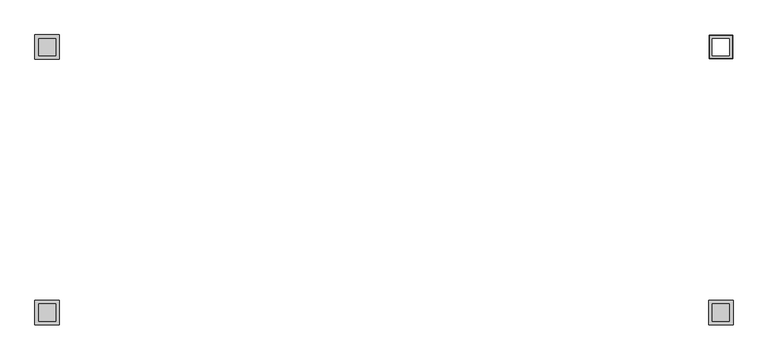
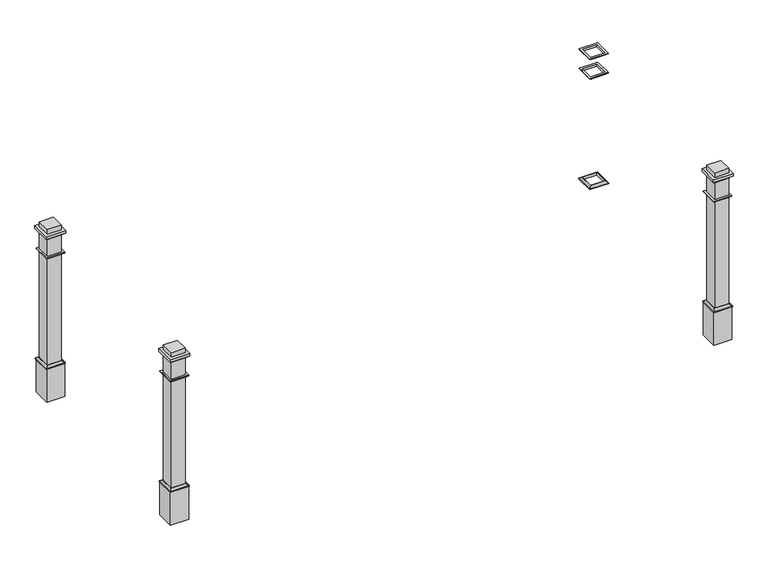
"""IFC4 building model written with IfcOpenShell, lengths in millimetres: railing geometry, Deco Type."""

from ifc_helpers import new_model, si_unit, frame, origin, place, context, project, spatial, polyline, ellipse_curve, outline, extrude, faceted_brep, source, transform, mapped, element, save
from ifc_brep_helpers import plane_surface, revolved_surface, advanced_brep


def railing_43a8c4a0(model_context):
    return source(origin(), model_context, "Body", "SolidModel", [
        advanced_brep(
        [(-6672.1906648, 13388.0931951, 3149.6), (-6551.5406648, 13388.0931951, 3149.6), (-6551.5406648, 13388.0931951, 3171.825), (-6672.1906648, 13388.0931951, 3171.825), (-6694.4156648, 13410.3181951, 3155.95), (-6529.3156648, 13410.3181951, 3155.95), (-6529.3156648, 13410.3181951, 3149.6), (-6694.4156648, 13410.3181951, 3149.6), (-6678.5406648, 13394.4431951, 3171.825), (-6545.1906648, 13394.4431951, 3171.825), (-6551.5406648, 13267.4431951, 3149.6), (-6551.5406648, 13267.4431951, 3171.825), (-6529.3156648, 13245.2181951, 3155.95), (-6529.3156648, 13245.2181951, 3149.6), (-6545.1906648, 13261.0931951, 3171.825), (-6672.1906648, 13267.4431951, 3149.6), (-6672.1906648, 13267.4431951, 3171.825), (-6694.4156648, 13245.2181951, 3155.95), (-6694.4156648, 13245.2181951, 3149.6), (-6678.5406648, 13261.0931951, 3171.825)],
        [
            (0, 1),
            (1, 2),
            (2, 3),
            (3, 0),
            (4, 5),
            (5, 6),
            (6, 7),
            (7, 4),
            (8, 9),
            (9, 5, ellipse_curve(frame((-6529.3156648, 13410.3181951, 3171.825), z_axis=(0.7071067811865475, -0.7071067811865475, 0.0), x_axis=(0.7071067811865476, 0.7071067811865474, 0.0)), 22.4506403, 15.875)),
            (4, 8, ellipse_curve(frame((-6694.4156648, 13410.3181951, 3171.825), z_axis=(-0.7071067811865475, -0.7071067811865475, 0.0), x_axis=(0.7071067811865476, -0.7071067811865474, 0.0)), 22.4506403, 15.875)),
            (1, 10),
            (10, 11),
            (11, 2),
            (5, 12),
            (12, 13),
            (13, 6),
            (9, 14),
            (14, 12, ellipse_curve(frame((-6529.3156648, 13245.2181951, 3171.825), z_axis=(-0.7071067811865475, -0.7071067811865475, 0.0), x_axis=(0.7071067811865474, -0.7071067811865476, 0.0)), 22.4506403, 15.875)),
            (10, 15),
            (15, 16),
            (16, 11),
            (12, 17),
            (17, 18),
            (18, 13),
            (14, 19),
            (19, 17, ellipse_curve(frame((-6694.4156648, 13245.2181951, 3171.825), z_axis=(-0.7071067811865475, 0.7071067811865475, 0.0), x_axis=(-0.7071067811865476, -0.7071067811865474, 0.0)), 22.4506403, 15.875)),
            (15, 0),
            (3, 16),
            (18, 7),
            (17, 4),
            (19, 8),
        ],
        [
            plane_surface(frame((-6672.1906648, 13388.0931951, 3171.825), z_axis=(0.0, -1.0, 0.0), x_axis=(1.0, 0.0, 0.0))),
            plane_surface(frame((-6694.4156648, 13410.3181951, 3149.6), z_axis=(0.0, 1.0, 0.0), x_axis=(1.0, 0.0, 0.0))),
            revolved_surface(polyline([(-6513.44066480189, 13394.4431951, 3171.825), (-6710.29066479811, 13394.4431951, 3171.825)]), (-6672.1906648, 13410.3181951, 3171.825), (1.0, 0.0, 0.0)),
            plane_surface(frame((-6551.5406648, 13388.0931951, 3171.825), z_axis=(-1.0, 0.0, 0.0), x_axis=(0.0, -1.0, 0.0))),
            plane_surface(frame((-6529.3156648, 13410.3181951, 3149.6), z_axis=(1.0, 0.0, 0.0), x_axis=(0.0, -1.0, 0.0))),
            revolved_surface(polyline([(-6545.1906648, 13229.34319510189, 3171.825), (-6545.1906648, 13426.19319509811, 3171.825)]), (-6529.3156648, 13388.0931951, 3171.825), (0.0, -1.0, 0.0)),
            plane_surface(frame((-6551.5406648, 13267.4431951, 3171.825), z_axis=(0.0, 1.0, 0.0), x_axis=(-1.0, 0.0, 0.0))),
            plane_surface(frame((-6529.3156648, 13245.2181951, 3149.6), z_axis=(0.0, -1.0, 0.0), x_axis=(-1.0, 0.0, 0.0))),
            revolved_surface(polyline([(-6710.29066479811, 13261.0931951, 3171.825), (-6513.44066480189, 13261.0931951, 3171.825)]), (-6551.5406648, 13245.2181951, 3171.825), (-1.0, 0.0, 0.0)),
            plane_surface(frame((-6672.1906648, 13267.4431951, 3171.825), z_axis=(1.0, 0.0, 0.0), x_axis=(0.0, 1.0, 0.0))),
            plane_surface(frame((-6672.1906648, 13267.4431951, 3149.6), z_axis=(0.0, 0.0, -1.0), x_axis=(0.0, 1.0, 0.0))),
            plane_surface(frame((-6694.4156648, 13245.2181951, 3149.6), z_axis=(-1.0, 0.0, 0.0), x_axis=(0.0, 1.0, 0.0))),
            revolved_surface(polyline([(-6678.5406648, 13426.19319509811, 3171.825), (-6678.5406648, 13229.34319510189, 3171.825)]), (-6694.4156648, 13267.4431951, 3171.825), (0.0, 1.0, 0.0)),
            plane_surface(frame((-6678.5406648, 13261.0931951, 3171.825), z_axis=(0.0, 0.0, 1.0), x_axis=(0.0, 1.0, 0.0))),
        ],
        [
            (0, [[1, 2, 3, 4]]),
            (1, [[5, 6, 7, 8]]),
            (2, [[9, 10, -5, 11]]),
            (3, [[12, 13, 14, -2]]),
            (4, [[15, 16, 17, -6]]),
            (5, [[18, 19, -15, -10]]),
            (6, [[20, 21, 22, -13]]),
            (7, [[23, 24, 25, -16]]),
            (8, [[26, 27, -23, -19]]),
            (9, [[28, -4, 29, -21]]),
            (10, [[-7, -17, -25, 30], [-1, -28, -20, -12]]),
            (11, [[31, -8, -30, -24]]),
            (12, [[32, -11, -31, -27]]),
            (13, [[-9, -32, -26, -18], [-3, -14, -22, -29]]),
        ],
    ),
        advanced_brep(
        [(-6672.1906648, 13388.0931951, 4156.075), (-6551.5406648, 13388.0931951, 4156.075), (-6551.5406648, 13388.0931951, 4175.125), (-6672.1906648, 13388.0931951, 4175.125), (-6691.2406648, 13407.1431951, 4168.775), (-6532.4906648, 13407.1431951, 4168.775), (-6545.1906648, 13394.4431951, 4156.075), (-6678.5406648, 13394.4431951, 4156.075), (-6691.2406648, 13407.1431951, 4175.125), (-6532.4906648, 13407.1431951, 4175.125), (-6551.5406648, 13267.4431951, 4156.075), (-6551.5406648, 13267.4431951, 4175.125), (-6532.4906648, 13248.3931951, 4168.775), (-6545.1906648, 13261.0931951, 4156.075), (-6532.4906648, 13248.3931951, 4175.125), (-6672.1906648, 13267.4431951, 4156.075), (-6672.1906648, 13267.4431951, 4175.125), (-6691.2406648, 13248.3931951, 4168.775), (-6678.5406648, 13261.0931951, 4156.075), (-6691.2406648, 13248.3931951, 4175.125)],
        [
            (0, 1),
            (1, 2),
            (2, 3),
            (3, 0),
            (4, 5),
            (5, 6, ellipse_curve(frame((-6532.4906648, 13407.1431951, 4156.075), z_axis=(0.7071067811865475, -0.7071067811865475, 0.0), x_axis=(0.7071067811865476, 0.7071067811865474, 0.0)), 17.9605122, 12.7)),
            (6, 7),
            (7, 4, ellipse_curve(frame((-6691.2406648, 13407.1431951, 4156.075), z_axis=(-0.7071067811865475, -0.7071067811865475, 0.0), x_axis=(0.7071067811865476, -0.7071067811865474, 0.0)), 17.9605122, 12.7)),
            (8, 9),
            (9, 5),
            (4, 8),
            (1, 10),
            (10, 11),
            (11, 2),
            (5, 12),
            (12, 13, ellipse_curve(frame((-6532.4906648, 13248.3931951, 4156.075), z_axis=(-0.7071067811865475, -0.7071067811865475, 0.0), x_axis=(0.7071067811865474, -0.7071067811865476, 0.0)), 17.9605122, 12.7)),
            (13, 6),
            (9, 14),
            (14, 12),
            (10, 15),
            (15, 16),
            (16, 11),
            (12, 17),
            (17, 18, ellipse_curve(frame((-6691.2406648, 13248.3931951, 4156.075), z_axis=(-0.7071067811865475, 0.7071067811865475, 0.0), x_axis=(-0.7071067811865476, -0.7071067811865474, 0.0)), 17.9605122, 12.7)),
            (18, 13),
            (14, 19),
            (19, 17),
            (8, 19),
            (16, 3),
            (15, 0),
            (18, 7),
            (17, 4),
        ],
        [
            plane_surface(frame((-6672.1906648, 13388.0931951, 4175.125), z_axis=(0.0, -1.0, 0.0), x_axis=(1.0, 0.0, 0.0))),
            revolved_surface(polyline([(-6519.790664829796, 13394.443195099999, 4156.075), (-6703.9406647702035, 13394.443195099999, 4156.075)]), (-6672.1906648, 13407.1431951, 4156.075), (1.0, 0.0, 0.0)),
            plane_surface(frame((-6691.2406648, 13407.1431951, 4168.775), z_axis=(0.0, 1.0, 0.0), x_axis=(1.0, 0.0, 0.0))),
            plane_surface(frame((-6551.5406648, 13388.0931951, 4175.125), z_axis=(-1.0, 0.0, 0.0), x_axis=(0.0, -1.0, 0.0))),
            revolved_surface(polyline([(-6545.1906647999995, 13235.693195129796, 4156.075), (-6545.1906647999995, 13419.843195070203, 4156.075)]), (-6532.4906648, 13388.0931951, 4156.075), (0.0, -1.0, 0.0)),
            plane_surface(frame((-6532.4906648, 13407.1431951, 4168.775), z_axis=(1.0, 0.0, 0.0), x_axis=(0.0, -1.0, 0.0))),
            plane_surface(frame((-6551.5406648, 13267.4431951, 4175.125), z_axis=(0.0, 1.0, 0.0), x_axis=(-1.0, 0.0, 0.0))),
            revolved_surface(polyline([(-6703.9406647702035, 13261.0931951, 4156.075), (-6519.790664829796, 13261.0931951, 4156.075)]), (-6551.5406648, 13248.3931951, 4156.075), (-1.0, 0.0, 0.0)),
            plane_surface(frame((-6532.4906648, 13248.3931951, 4168.775), z_axis=(0.0, -1.0, 0.0), x_axis=(-1.0, 0.0, 0.0))),
            plane_surface(frame((-6691.2406648, 13248.3931951, 4175.125), z_axis=(0.0, 0.0, 1.0), x_axis=(0.0, 1.0, 0.0))),
            plane_surface(frame((-6672.1906648, 13267.4431951, 4175.125), z_axis=(1.0, 0.0, 0.0), x_axis=(0.0, 1.0, 0.0))),
            plane_surface(frame((-6672.1906648, 13267.4431951, 4156.075), z_axis=(0.0, 0.0, -1.0), x_axis=(0.0, 1.0, 0.0))),
            revolved_surface(polyline([(-6678.5406648, 13419.843195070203, 4156.075), (-6678.5406648, 13235.693195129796, 4156.075)]), (-6691.2406648, 13267.4431951, 4156.075), (0.0, 1.0, 0.0)),
            plane_surface(frame((-6691.2406648, 13248.3931951, 4168.775), z_axis=(-1.0, 0.0, 0.0), x_axis=(0.0, 1.0, 0.0))),
        ],
        [
            (0, [[1, 2, 3, 4]]),
            (1, [[5, 6, 7, 8]]),
            (2, [[9, 10, -5, 11]]),
            (3, [[12, 13, 14, -2]]),
            (4, [[15, 16, 17, -6]]),
            (5, [[18, 19, -15, -10]]),
            (6, [[20, 21, 22, -13]]),
            (7, [[23, 24, 25, -16]]),
            (8, [[26, 27, -23, -19]]),
            (9, [[-9, 28, -26, -18], [-3, -14, -22, 29]]),
            (10, [[30, -4, -29, -21]]),
            (11, [[-7, -17, -25, 31], [-1, -30, -20, -12]]),
            (12, [[32, -8, -31, -24]]),
            (13, [[-28, -11, -32, -27]]),
        ],
    ),
        faceted_brep([(-6672.1906648, 13388.0931951, 4333.875), (-6551.5406648, 13388.0931951, 4333.875), (-6551.5406648, 13388.0931951, 4352.925), (-6672.1906648, 13388.0931951, 4352.925), (-6678.5406648, 13394.4431951, 4346.575), (-6545.1906648, 13394.4431951, 4346.575), (-6545.1906648, 13394.4431951, 4333.875), (-6678.5406648, 13394.4431951, 4333.875), (-6691.2406648, 13407.1431951, 4352.925), (-6532.4906648, 13407.1431951, 4352.925), (-6532.4906648, 13407.1431951, 4346.575), (-6691.2406648, 13407.1431951, 4346.575), (-6551.5406648, 13267.4431951, 4333.875), (-6551.5406648, 13267.4431951, 4352.925), (-6545.1906648, 13261.0931951, 4346.575), (-6545.1906648, 13261.0931951, 4333.875), (-6532.4906648, 13248.3931951, 4352.925), (-6532.4906648, 13248.3931951, 4346.575), (-6672.1906648, 13267.4431951, 4333.875), (-6672.1906648, 13267.4431951, 4352.925), (-6678.5406648, 13261.0931951, 4346.575), (-6678.5406648, 13261.0931951, 4333.875), (-6691.2406648, 13248.3931951, 4352.925), (-6691.2406648, 13248.3931951, 4346.575)], [[[0, 1, 2, 3]], [[4, 5, 6, 7]], [[8, 9, 10, 11]], [[1, 12, 13, 2]], [[5, 14, 15, 6]], [[9, 16, 17, 10]], [[12, 18, 19, 13]], [[14, 20, 21, 15]], [[16, 22, 23, 17]], [[18, 0, 3, 19]], [[7, 6, 15, 21], [1, 0, 18, 12]], [[20, 4, 7, 21]], [[11, 10, 17, 23], [5, 4, 20, 14]], [[22, 8, 11, 23]], [[9, 8, 22, 16], [3, 2, 13, 19]]]),
        extrude(outline(polyline([(-11275.1469148, 13248.3931951), (-11433.8969148, 13248.3931951), (-11433.8969148, 13407.1431951), (-11275.1469148, 13407.1431951), (-11275.1469148, 13248.3931951)])), frame((0.0, 0.0, 2844.8), z_axis=(0.0, 0.0, 1.0), x_axis=(1.0, 0.0, 0.0)), (0.0, 0.0, 1.0), 304.8),
        extrude(outline(polyline([(-11294.1969148, 13267.4431951), (-11414.8469148, 13267.4431951), (-11414.8469148, 13388.0931951), (-11294.1969148, 13388.0931951), (-11294.1969148, 13267.4431951)])), frame((0.0, 0.0, 3149.6), z_axis=(0.0, 0.0, 1.0), x_axis=(1.0, 0.0, 0.0)), (0.0, 0.0, 1.0), 1270.0),
        extrude(outline(polyline([(-11440.2469148, 13242.0431951), (-11440.2469148, 13413.4931951), (-11268.7969148, 13413.4931951), (-11268.7969148, 13242.0431951), (-11440.2469148, 13242.0431951)]), holes=[polyline([(-11414.8469148, 13388.0931951), (-11414.8469148, 13267.4431951), (-11294.1969148, 13267.4431951), (-11294.1969148, 13388.0931951), (-11414.8469148, 13388.0931951)])]), frame((0.0, 0.0, 4352.925), z_axis=(0.0, 0.0, 1.0), x_axis=(1.0, 0.0, 0.0)), (0.0, 0.0, 1.0), 25.4),
        advanced_brep(
        [(-11414.8469148, 13267.4431951, 3149.6), (-11414.8469148, 13388.0931951, 3149.6), (-11414.8469148, 13388.0931951, 3171.825), (-11414.8469148, 13267.4431951, 3171.825), (-11437.0719148, 13245.2181951, 3155.95), (-11437.0719148, 13410.3181951, 3155.95), (-11437.0719148, 13410.3181951, 3149.6), (-11437.0719148, 13245.2181951, 3149.6), (-11421.1969148, 13261.0931951, 3171.825), (-11421.1969148, 13394.4431951, 3171.825), (-11294.1969148, 13388.0931951, 3149.6), (-11294.1969148, 13388.0931951, 3171.825), (-11271.9719148, 13410.3181951, 3155.95), (-11271.9719148, 13410.3181951, 3149.6), (-11287.8469148, 13394.4431951, 3171.825), (-11294.1969148, 13267.4431951, 3149.6), (-11294.1969148, 13267.4431951, 3171.825), (-11271.9719148, 13245.2181951, 3155.95), (-11271.9719148, 13245.2181951, 3149.6), (-11287.8469148, 13261.0931951, 3171.825)],
        [
            (0, 1),
            (1, 2),
            (2, 3),
            (3, 0),
            (4, 5),
            (5, 6),
            (6, 7),
            (7, 4),
            (8, 9),
            (9, 5, ellipse_curve(frame((-11437.0719148, 13410.3181951, 3171.825), z_axis=(0.7071067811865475, 0.7071067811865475, 0.0), x_axis=(-0.7071067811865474, 0.7071067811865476, 0.0)), 22.4506403, 15.875)),
            (4, 8, ellipse_curve(frame((-11437.0719148, 13245.2181951, 3171.825), z_axis=(0.7071067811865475, -0.7071067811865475, 0.0), x_axis=(0.7071067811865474, 0.7071067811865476, 0.0)), 22.4506403, 15.875)),
            (1, 10),
            (10, 11),
            (11, 2),
            (5, 12),
            (12, 13),
            (13, 6),
            (9, 14),
            (14, 12, ellipse_curve(frame((-11271.9719148, 13410.3181951, 3171.825), z_axis=(0.7071067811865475, -0.7071067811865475, 0.0), x_axis=(0.7071067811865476, 0.7071067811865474, 0.0)), 22.4506403, 15.875)),
            (10, 15),
            (15, 16),
            (16, 11),
            (12, 17),
            (17, 18),
            (18, 13),
            (14, 19),
            (19, 17, ellipse_curve(frame((-11271.9719148, 13245.2181951, 3171.825), z_axis=(-0.7071067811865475, -0.7071067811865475, 0.0), x_axis=(0.7071067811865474, -0.7071067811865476, 0.0)), 22.4506403, 15.875)),
            (15, 0),
            (3, 16),
            (18, 7),
            (17, 4),
            (19, 8),
        ],
        [
            plane_surface(frame((-11414.8469148, 13267.4431951, 3171.825), z_axis=(1.0, 0.0, 0.0), x_axis=(0.0, 1.0, 0.0))),
            plane_surface(frame((-11437.0719148, 13245.2181951, 3149.6), z_axis=(-1.0, 0.0, 0.0), x_axis=(0.0, 1.0, 0.0))),
            revolved_surface(polyline([(-11421.1969148, 13426.19319509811, 3171.825), (-11421.1969148, 13229.34319510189, 3171.825)]), (-11437.0719148, 13267.4431951, 3171.825), (0.0, 1.0, 0.0)),
            plane_surface(frame((-11414.8469148, 13388.0931951, 3171.825), z_axis=(0.0, -1.0, 0.0), x_axis=(1.0, 0.0, 0.0))),
            plane_surface(frame((-11437.0719148, 13410.3181951, 3149.6), z_axis=(0.0, 1.0, 0.0), x_axis=(1.0, 0.0, 0.0))),
            revolved_surface(polyline([(-11256.09691480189, 13394.4431951, 3171.825), (-11452.94691479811, 13394.4431951, 3171.825)]), (-11414.8469148, 13410.3181951, 3171.825), (1.0, 0.0, 0.0)),
            plane_surface(frame((-11294.1969148, 13388.0931951, 3171.825), z_axis=(-1.0, 0.0, 0.0), x_axis=(0.0, -1.0, 0.0))),
            plane_surface(frame((-11271.9719148, 13410.3181951, 3149.6), z_axis=(1.0, 0.0, 0.0), x_axis=(0.0, -1.0, 0.0))),
            revolved_surface(polyline([(-11287.8469148, 13229.34319510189, 3171.825), (-11287.8469148, 13426.19319509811, 3171.825)]), (-11271.9719148, 13388.0931951, 3171.825), (0.0, -1.0, 0.0)),
            plane_surface(frame((-11294.1969148, 13267.4431951, 3171.825), z_axis=(0.0, 1.0, 0.0), x_axis=(-1.0, 0.0, 0.0))),
            plane_surface(frame((-11294.1969148, 13267.4431951, 3149.6), z_axis=(0.0, 0.0, -1.0), x_axis=(-1.0, 0.0, 0.0))),
            plane_surface(frame((-11271.9719148, 13245.2181951, 3149.6), z_axis=(0.0, -1.0, 0.0), x_axis=(-1.0, 0.0, 0.0))),
            revolved_surface(polyline([(-11452.94691479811, 13261.0931951, 3171.825), (-11256.09691480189, 13261.0931951, 3171.825)]), (-11294.1969148, 13245.2181951, 3171.825), (-1.0, 0.0, 0.0)),
            plane_surface(frame((-11287.8469148, 13261.0931951, 3171.825), z_axis=(0.0, 0.0, 1.0), x_axis=(-1.0, 0.0, 0.0))),
        ],
        [
            (0, [[1, 2, 3, 4]]),
            (1, [[5, 6, 7, 8]]),
            (2, [[9, 10, -5, 11]]),
            (3, [[12, 13, 14, -2]]),
            (4, [[15, 16, 17, -6]]),
            (5, [[18, 19, -15, -10]]),
            (6, [[20, 21, 22, -13]]),
            (7, [[23, 24, 25, -16]]),
            (8, [[26, 27, -23, -19]]),
            (9, [[28, -4, 29, -21]]),
            (10, [[-7, -17, -25, 30], [-1, -28, -20, -12]]),
            (11, [[31, -8, -30, -24]]),
            (12, [[32, -11, -31, -27]]),
            (13, [[-9, -32, -26, -18], [-3, -14, -22, -29]]),
        ],
    ),
        advanced_brep(
        [(-11414.8469148, 13267.4431951, 4156.075), (-11414.8469148, 13388.0931951, 4156.075), (-11414.8469148, 13388.0931951, 4175.125), (-11414.8469148, 13267.4431951, 4175.125), (-11433.8969148, 13248.3931951, 4168.775), (-11433.8969148, 13407.1431951, 4168.775), (-11421.1969148, 13394.4431951, 4156.075), (-11421.1969148, 13261.0931951, 4156.075), (-11433.8969148, 13248.3931951, 4175.125), (-11433.8969148, 13407.1431951, 4175.125), (-11294.1969148, 13388.0931951, 4156.075), (-11294.1969148, 13388.0931951, 4175.125), (-11275.1469148, 13407.1431951, 4168.775), (-11287.8469148, 13394.4431951, 4156.075), (-11275.1469148, 13407.1431951, 4175.125), (-11294.1969148, 13267.4431951, 4156.075), (-11294.1969148, 13267.4431951, 4175.125), (-11275.1469148, 13248.3931951, 4168.775), (-11287.8469148, 13261.0931951, 4156.075), (-11275.1469148, 13248.3931951, 4175.125)],
        [
            (0, 1),
            (1, 2),
            (2, 3),
            (3, 0),
            (4, 5),
            (5, 6, ellipse_curve(frame((-11433.8969148, 13407.1431951, 4156.075), z_axis=(0.7071067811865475, 0.7071067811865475, 0.0), x_axis=(-0.7071067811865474, 0.7071067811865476, 0.0)), 17.9605122, 12.7)),
            (6, 7),
            (7, 4, ellipse_curve(frame((-11433.8969148, 13248.3931951, 4156.075), z_axis=(0.7071067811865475, -0.7071067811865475, 0.0), x_axis=(0.7071067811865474, 0.7071067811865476, 0.0)), 17.9605122, 12.7)),
            (8, 9),
            (9, 5),
            (4, 8),
            (1, 10),
            (10, 11),
            (11, 2),
            (5, 12),
            (12, 13, ellipse_curve(frame((-11275.1469148, 13407.1431951, 4156.075), z_axis=(0.7071067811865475, -0.7071067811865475, 0.0), x_axis=(0.7071067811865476, 0.7071067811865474, 0.0)), 17.9605122, 12.7)),
            (13, 6),
            (9, 14),
            (14, 12),
            (10, 15),
            (15, 16),
            (16, 11),
            (12, 17),
            (17, 18, ellipse_curve(frame((-11275.1469148, 13248.3931951, 4156.075), z_axis=(-0.7071067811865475, -0.7071067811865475, 0.0), x_axis=(0.7071067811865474, -0.7071067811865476, 0.0)), 17.9605122, 12.7)),
            (18, 13),
            (14, 19),
            (19, 17),
            (8, 19),
            (16, 3),
            (15, 0),
            (18, 7),
            (17, 4),
        ],
        [
            plane_surface(frame((-11414.8469148, 13267.4431951, 4175.125), z_axis=(1.0, 0.0, 0.0), x_axis=(0.0, 1.0, 0.0))),
            revolved_surface(polyline([(-11421.196914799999, 13419.843195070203, 4156.075), (-11421.196914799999, 13235.693195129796, 4156.075)]), (-11433.8969148, 13267.4431951, 4156.075), (0.0, 1.0, 0.0)),
            plane_surface(frame((-11433.8969148, 13248.3931951, 4168.775), z_axis=(-1.0, 0.0, 0.0), x_axis=(0.0, 1.0, 0.0))),
            plane_surface(frame((-11414.8469148, 13388.0931951, 4175.125), z_axis=(0.0, -1.0, 0.0), x_axis=(1.0, 0.0, 0.0))),
            revolved_surface(polyline([(-11262.446914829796, 13394.443195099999, 4156.075), (-11446.596914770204, 13394.443195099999, 4156.075)]), (-11414.8469148, 13407.1431951, 4156.075), (1.0, 0.0, 0.0)),
            plane_surface(frame((-11433.8969148, 13407.1431951, 4168.775), z_axis=(0.0, 1.0, 0.0), x_axis=(1.0, 0.0, 0.0))),
            plane_surface(frame((-11294.1969148, 13388.0931951, 4175.125), z_axis=(-1.0, 0.0, 0.0), x_axis=(0.0, -1.0, 0.0))),
            revolved_surface(polyline([(-11287.8469148, 13235.693195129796, 4156.075), (-11287.8469148, 13419.843195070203, 4156.075)]), (-11275.1469148, 13388.0931951, 4156.075), (0.0, -1.0, 0.0)),
            plane_surface(frame((-11275.1469148, 13407.1431951, 4168.775), z_axis=(1.0, 0.0, 0.0), x_axis=(0.0, -1.0, 0.0))),
            plane_surface(frame((-11275.1469148, 13248.3931951, 4175.125), z_axis=(0.0, 0.0, 1.0), x_axis=(-1.0, 0.0, 0.0))),
            plane_surface(frame((-11294.1969148, 13267.4431951, 4175.125), z_axis=(0.0, 1.0, 0.0), x_axis=(-1.0, 0.0, 0.0))),
            plane_surface(frame((-11294.1969148, 13267.4431951, 4156.075), z_axis=(0.0, 0.0, -1.0), x_axis=(-1.0, 0.0, 0.0))),
            revolved_surface(polyline([(-11446.596914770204, 13261.0931951, 4156.075), (-11262.446914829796, 13261.0931951, 4156.075)]), (-11294.1969148, 13248.3931951, 4156.075), (-1.0, 0.0, 0.0)),
            plane_surface(frame((-11275.1469148, 13248.3931951, 4168.775), z_axis=(0.0, -1.0, 0.0), x_axis=(-1.0, 0.0, 0.0))),
        ],
        [
            (0, [[1, 2, 3, 4]]),
            (1, [[5, 6, 7, 8]]),
            (2, [[9, 10, -5, 11]]),
            (3, [[12, 13, 14, -2]]),
            (4, [[15, 16, 17, -6]]),
            (5, [[18, 19, -15, -10]]),
            (6, [[20, 21, 22, -13]]),
            (7, [[23, 24, 25, -16]]),
            (8, [[26, 27, -23, -19]]),
            (9, [[-9, 28, -26, -18], [-3, -14, -22, 29]]),
            (10, [[30, -4, -29, -21]]),
            (11, [[-7, -17, -25, 31], [-1, -30, -20, -12]]),
            (12, [[32, -8, -31, -24]]),
            (13, [[-28, -11, -32, -27]]),
        ],
    ),
        faceted_brep([(-11414.8469148, 13267.4431951, 4333.875), (-11414.8469148, 13388.0931951, 4333.875), (-11414.8469148, 13388.0931951, 4352.925), (-11414.8469148, 13267.4431951, 4352.925), (-11421.1969148, 13261.0931951, 4346.575), (-11421.1969148, 13394.4431951, 4346.575), (-11421.1969148, 13394.4431951, 4333.875), (-11421.1969148, 13261.0931951, 4333.875), (-11433.8969148, 13248.3931951, 4352.925), (-11433.8969148, 13407.1431951, 4352.925), (-11433.8969148, 13407.1431951, 4346.575), (-11433.8969148, 13248.3931951, 4346.575), (-11294.1969148, 13388.0931951, 4333.875), (-11294.1969148, 13388.0931951, 4352.925), (-11287.8469148, 13394.4431951, 4346.575), (-11287.8469148, 13394.4431951, 4333.875), (-11275.1469148, 13407.1431951, 4352.925), (-11275.1469148, 13407.1431951, 4346.575), (-11294.1969148, 13267.4431951, 4333.875), (-11294.1969148, 13267.4431951, 4352.925), (-11287.8469148, 13261.0931951, 4346.575), (-11287.8469148, 13261.0931951, 4333.875), (-11275.1469148, 13248.3931951, 4352.925), (-11275.1469148, 13248.3931951, 4346.575)], [[[0, 1, 2, 3]], [[4, 5, 6, 7]], [[8, 9, 10, 11]], [[1, 12, 13, 2]], [[5, 14, 15, 6]], [[9, 16, 17, 10]], [[12, 18, 19, 13]], [[14, 20, 21, 15]], [[16, 22, 23, 17]], [[18, 0, 3, 19]], [[7, 6, 15, 21], [1, 0, 18, 12]], [[20, 4, 7, 21]], [[11, 10, 17, 23], [5, 4, 20, 14]], [[22, 8, 11, 23]], [[9, 8, 22, 16], [3, 2, 13, 19]]]),
        extrude(outline(polyline([(-6691.2406648, 11535.0838201), (-6532.4906648, 11535.0838201), (-6532.4906648, 11376.3338201), (-6691.2406648, 11376.3338201), (-6691.2406648, 11535.0838201)])), frame((0.0, 0.0, 2844.8), z_axis=(0.0, 0.0, 1.0), x_axis=(1.0, 0.0, 0.0)), (0.0, 0.0, 1.0), 304.8),
        extrude(outline(polyline([(-6672.1906648, 11516.0338201), (-6551.5406648, 11516.0338201), (-6551.5406648, 11395.3838201), (-6672.1906648, 11395.3838201), (-6672.1906648, 11516.0338201)])), frame((0.0, 0.0, 3149.6), z_axis=(0.0, 0.0, 1.0), x_axis=(1.0, 0.0, 0.0)), (0.0, 0.0, 1.0), 1270.0),
        extrude(outline(polyline([(-6526.1406648, 11541.4338201), (-6526.1406648, 11369.9838201), (-6697.5906648, 11369.9838201), (-6697.5906648, 11541.4338201), (-6526.1406648, 11541.4338201)]), holes=[polyline([(-6551.5406648, 11395.3838201), (-6551.5406648, 11516.0338201), (-6672.1906648, 11516.0338201), (-6672.1906648, 11395.3838201), (-6551.5406648, 11395.3838201)])]), frame((0.0, 0.0, 4352.925), z_axis=(0.0, 0.0, 1.0), x_axis=(1.0, 0.0, 0.0)), (0.0, 0.0, 1.0), 25.4),
        advanced_brep(
        [(-6551.5406648, 11516.0338201, 3149.6), (-6551.5406648, 11395.3838201, 3149.6), (-6551.5406648, 11395.3838201, 3171.825), (-6551.5406648, 11516.0338201, 3171.825), (-6529.3156648, 11538.2588201, 3155.95), (-6529.3156648, 11373.1588201, 3155.95), (-6529.3156648, 11373.1588201, 3149.6), (-6529.3156648, 11538.2588201, 3149.6), (-6545.1906648, 11522.3838201, 3171.825), (-6545.1906648, 11389.0338201, 3171.825), (-6672.1906648, 11395.3838201, 3149.6), (-6672.1906648, 11395.3838201, 3171.825), (-6694.4156648, 11373.1588201, 3155.95), (-6694.4156648, 11373.1588201, 3149.6), (-6678.5406648, 11389.0338201, 3171.825), (-6672.1906648, 11516.0338201, 3149.6), (-6672.1906648, 11516.0338201, 3171.825), (-6694.4156648, 11538.2588201, 3155.95), (-6694.4156648, 11538.2588201, 3149.6), (-6678.5406648, 11522.3838201, 3171.825)],
        [
            (0, 1),
            (1, 2),
            (2, 3),
            (3, 0),
            (4, 5),
            (5, 6),
            (6, 7),
            (7, 4),
            (8, 9),
            (9, 5, ellipse_curve(frame((-6529.3156648, 11373.1588201, 3171.825), z_axis=(-0.7071067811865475, -0.7071067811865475, 0.0), x_axis=(0.7071067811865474, -0.7071067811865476, 0.0)), 22.4506403, 15.875)),
            (4, 8, ellipse_curve(frame((-6529.3156648, 11538.2588201, 3171.825), z_axis=(-0.7071067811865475, 0.7071067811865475, 0.0), x_axis=(-0.7071067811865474, -0.7071067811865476, 0.0)), 22.4506403, 15.875)),
            (1, 10),
            (10, 11),
            (11, 2),
            (5, 12),
            (12, 13),
            (13, 6),
            (9, 14),
            (14, 12, ellipse_curve(frame((-6694.4156648, 11373.1588201, 3171.825), z_axis=(-0.7071067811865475, 0.7071067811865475, 0.0), x_axis=(-0.7071067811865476, -0.7071067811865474, 0.0)), 22.4506403, 15.875)),
            (10, 15),
            (15, 16),
            (16, 11),
            (12, 17),
            (17, 18),
            (18, 13),
            (14, 19),
            (19, 17, ellipse_curve(frame((-6694.4156648, 11538.2588201, 3171.825), z_axis=(0.7071067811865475, 0.7071067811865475, 0.0), x_axis=(-0.7071067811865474, 0.7071067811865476, 0.0)), 22.4506403, 15.875)),
            (15, 0),
            (3, 16),
            (18, 7),
            (17, 4),
            (19, 8),
        ],
        [
            plane_surface(frame((-6551.5406648, 11516.0338201, 3171.825), z_axis=(-1.0, 0.0, 0.0), x_axis=(0.0, -1.0, 0.0))),
            plane_surface(frame((-6529.3156648, 11538.2588201, 3149.6), z_axis=(1.0, 0.0, 0.0), x_axis=(0.0, -1.0, 0.0))),
            revolved_surface(polyline([(-6545.1906648, 11357.28382010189, 3171.825), (-6545.1906648, 11554.13382009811, 3171.825)]), (-6529.3156648, 11516.0338201, 3171.825), (0.0, -1.0, 0.0)),
            plane_surface(frame((-6551.5406648, 11395.3838201, 3171.825), z_axis=(0.0, 1.0, 0.0), x_axis=(-1.0, 0.0, 0.0))),
            plane_surface(frame((-6529.3156648, 11373.1588201, 3149.6), z_axis=(0.0, -1.0, 0.0), x_axis=(-1.0, 0.0, 0.0))),
            revolved_surface(polyline([(-6710.29066479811, 11389.0338201, 3171.825), (-6513.44066480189, 11389.0338201, 3171.825)]), (-6551.5406648, 11373.1588201, 3171.825), (-1.0, 0.0, 0.0)),
            plane_surface(frame((-6672.1906648, 11395.3838201, 3171.825), z_axis=(1.0, 0.0, 0.0), x_axis=(0.0, 1.0, 0.0))),
            plane_surface(frame((-6694.4156648, 11373.1588201, 3149.6), z_axis=(-1.0, 0.0, 0.0), x_axis=(0.0, 1.0, 0.0))),
            revolved_surface(polyline([(-6678.5406648, 11554.13382009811, 3171.825), (-6678.5406648, 11357.28382010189, 3171.825)]), (-6694.4156648, 11395.3838201, 3171.825), (0.0, 1.0, 0.0)),
            plane_surface(frame((-6672.1906648, 11516.0338201, 3171.825), z_axis=(0.0, -1.0, 0.0), x_axis=(1.0, 0.0, 0.0))),
            plane_surface(frame((-6672.1906648, 11516.0338201, 3149.6), z_axis=(0.0, 0.0, -1.0), x_axis=(1.0, 0.0, 0.0))),
            plane_surface(frame((-6694.4156648, 11538.2588201, 3149.6), z_axis=(0.0, 1.0, 0.0), x_axis=(1.0, 0.0, 0.0))),
            revolved_surface(polyline([(-6513.44066480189, 11522.3838201, 3171.825), (-6710.29066479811, 11522.3838201, 3171.825)]), (-6672.1906648, 11538.2588201, 3171.825), (1.0, 0.0, 0.0)),
            plane_surface(frame((-6678.5406648, 11522.3838201, 3171.825), z_axis=(0.0, 0.0, 1.0), x_axis=(1.0, 0.0, 0.0))),
        ],
        [
            (0, [[1, 2, 3, 4]]),
            (1, [[5, 6, 7, 8]]),
            (2, [[9, 10, -5, 11]]),
            (3, [[12, 13, 14, -2]]),
            (4, [[15, 16, 17, -6]]),
            (5, [[18, 19, -15, -10]]),
            (6, [[20, 21, 22, -13]]),
            (7, [[23, 24, 25, -16]]),
            (8, [[26, 27, -23, -19]]),
            (9, [[28, -4, 29, -21]]),
            (10, [[-7, -17, -25, 30], [-1, -28, -20, -12]]),
            (11, [[31, -8, -30, -24]]),
            (12, [[32, -11, -31, -27]]),
            (13, [[-9, -32, -26, -18], [-3, -14, -22, -29]]),
        ],
    ),
        advanced_brep(
        [(-6551.5406648, 11516.0338201, 4156.075), (-6551.5406648, 11395.3838201, 4156.075), (-6551.5406648, 11395.3838201, 4175.125), (-6551.5406648, 11516.0338201, 4175.125), (-6532.4906648, 11535.0838201, 4168.775), (-6532.4906648, 11376.3338201, 4168.775), (-6545.1906648, 11389.0338201, 4156.075), (-6545.1906648, 11522.3838201, 4156.075), (-6532.4906648, 11535.0838201, 4175.125), (-6532.4906648, 11376.3338201, 4175.125), (-6672.1906648, 11395.3838201, 4156.075), (-6672.1906648, 11395.3838201, 4175.125), (-6691.2406648, 11376.3338201, 4168.775), (-6678.5406648, 11389.0338201, 4156.075), (-6691.2406648, 11376.3338201, 4175.125), (-6672.1906648, 11516.0338201, 4156.075), (-6672.1906648, 11516.0338201, 4175.125), (-6691.2406648, 11535.0838201, 4168.775), (-6678.5406648, 11522.3838201, 4156.075), (-6691.2406648, 11535.0838201, 4175.125)],
        [
            (0, 1),
            (1, 2),
            (2, 3),
            (3, 0),
            (4, 5),
            (5, 6, ellipse_curve(frame((-6532.4906648, 11376.3338201, 4156.075), z_axis=(-0.7071067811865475, -0.7071067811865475, 0.0), x_axis=(0.7071067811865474, -0.7071067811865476, 0.0)), 17.9605122, 12.7)),
            (6, 7),
            (7, 4, ellipse_curve(frame((-6532.4906648, 11535.0838201, 4156.075), z_axis=(-0.7071067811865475, 0.7071067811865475, 0.0), x_axis=(-0.7071067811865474, -0.7071067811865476, 0.0)), 17.9605122, 12.7)),
            (8, 9),
            (9, 5),
            (4, 8),
            (1, 10),
            (10, 11),
            (11, 2),
            (5, 12),
            (12, 13, ellipse_curve(frame((-6691.2406648, 11376.3338201, 4156.075), z_axis=(-0.7071067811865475, 0.7071067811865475, 0.0), x_axis=(-0.7071067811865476, -0.7071067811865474, 0.0)), 17.9605122, 12.7)),
            (13, 6),
            (9, 14),
            (14, 12),
            (10, 15),
            (15, 16),
            (16, 11),
            (12, 17),
            (17, 18, ellipse_curve(frame((-6691.2406648, 11535.0838201, 4156.075), z_axis=(0.7071067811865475, 0.7071067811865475, 0.0), x_axis=(-0.7071067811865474, 0.7071067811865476, 0.0)), 17.9605122, 12.7)),
            (18, 13),
            (14, 19),
            (19, 17),
            (8, 19),
            (16, 3),
            (15, 0),
            (18, 7),
            (17, 4),
        ],
        [
            plane_surface(frame((-6551.5406648, 11516.0338201, 4175.125), z_axis=(-1.0, 0.0, 0.0), x_axis=(0.0, -1.0, 0.0))),
            revolved_surface(polyline([(-6545.1906647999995, 11363.633820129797, 4156.075), (-6545.1906647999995, 11547.783820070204, 4156.075)]), (-6532.4906648, 11516.0338201, 4156.075), (0.0, -1.0, 0.0)),
            plane_surface(frame((-6532.4906648, 11535.0838201, 4168.775), z_axis=(1.0, 0.0, 0.0), x_axis=(0.0, -1.0, 0.0))),
            plane_surface(frame((-6551.5406648, 11395.3838201, 4175.125), z_axis=(0.0, 1.0, 0.0), x_axis=(-1.0, 0.0, 0.0))),
            revolved_surface(polyline([(-6703.9406647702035, 11389.033820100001, 4156.075), (-6519.790664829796, 11389.033820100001, 4156.075)]), (-6551.5406648, 11376.3338201, 4156.075), (-1.0, 0.0, 0.0)),
            plane_surface(frame((-6532.4906648, 11376.3338201, 4168.775), z_axis=(0.0, -1.0, 0.0), x_axis=(-1.0, 0.0, 0.0))),
            plane_surface(frame((-6672.1906648, 11395.3838201, 4175.125), z_axis=(1.0, 0.0, 0.0), x_axis=(0.0, 1.0, 0.0))),
            revolved_surface(polyline([(-6678.5406648, 11547.783820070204, 4156.075), (-6678.5406648, 11363.633820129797, 4156.075)]), (-6691.2406648, 11395.3838201, 4156.075), (0.0, 1.0, 0.0)),
            plane_surface(frame((-6691.2406648, 11376.3338201, 4168.775), z_axis=(-1.0, 0.0, 0.0), x_axis=(0.0, 1.0, 0.0))),
            plane_surface(frame((-6691.2406648, 11535.0838201, 4175.125), z_axis=(0.0, 0.0, 1.0), x_axis=(1.0, 0.0, 0.0))),
            plane_surface(frame((-6672.1906648, 11516.0338201, 4175.125), z_axis=(0.0, -1.0, 0.0), x_axis=(1.0, 0.0, 0.0))),
            plane_surface(frame((-6672.1906648, 11516.0338201, 4156.075), z_axis=(0.0, 0.0, -1.0), x_axis=(1.0, 0.0, 0.0))),
            revolved_surface(polyline([(-6519.790664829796, 11522.3838201, 4156.075), (-6703.9406647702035, 11522.3838201, 4156.075)]), (-6672.1906648, 11535.0838201, 4156.075), (1.0, 0.0, 0.0)),
            plane_surface(frame((-6691.2406648, 11535.0838201, 4168.775), z_axis=(0.0, 1.0, 0.0), x_axis=(1.0, 0.0, 0.0))),
        ],
        [
            (0, [[1, 2, 3, 4]]),
            (1, [[5, 6, 7, 8]]),
            (2, [[9, 10, -5, 11]]),
            (3, [[12, 13, 14, -2]]),
            (4, [[15, 16, 17, -6]]),
            (5, [[18, 19, -15, -10]]),
            (6, [[20, 21, 22, -13]]),
            (7, [[23, 24, 25, -16]]),
            (8, [[26, 27, -23, -19]]),
            (9, [[-9, 28, -26, -18], [-3, -14, -22, 29]]),
            (10, [[30, -4, -29, -21]]),
            (11, [[-7, -17, -25, 31], [-1, -30, -20, -12]]),
            (12, [[32, -8, -31, -24]]),
            (13, [[-28, -11, -32, -27]]),
        ],
    ),
        faceted_brep([(-6551.5406648, 11516.0338201, 4333.875), (-6551.5406648, 11395.3838201, 4333.875), (-6551.5406648, 11395.3838201, 4352.925), (-6551.5406648, 11516.0338201, 4352.925), (-6545.1906648, 11522.3838201, 4346.575), (-6545.1906648, 11389.0338201, 4346.575), (-6545.1906648, 11389.0338201, 4333.875), (-6545.1906648, 11522.3838201, 4333.875), (-6532.4906648, 11535.0838201, 4352.925), (-6532.4906648, 11376.3338201, 4352.925), (-6532.4906648, 11376.3338201, 4346.575), (-6532.4906648, 11535.0838201, 4346.575), (-6672.1906648, 11395.3838201, 4333.875), (-6672.1906648, 11395.3838201, 4352.925), (-6678.5406648, 11389.0338201, 4346.575), (-6678.5406648, 11389.0338201, 4333.875), (-6691.2406648, 11376.3338201, 4352.925), (-6691.2406648, 11376.3338201, 4346.575), (-6672.1906648, 11516.0338201, 4333.875), (-6672.1906648, 11516.0338201, 4352.925), (-6678.5406648, 11522.3838201, 4346.575), (-6678.5406648, 11522.3838201, 4333.875), (-6691.2406648, 11535.0838201, 4352.925), (-6691.2406648, 11535.0838201, 4346.575)], [[[0, 1, 2, 3]], [[4, 5, 6, 7]], [[8, 9, 10, 11]], [[1, 12, 13, 2]], [[5, 14, 15, 6]], [[9, 16, 17, 10]], [[12, 18, 19, 13]], [[14, 20, 21, 15]], [[16, 22, 23, 17]], [[18, 0, 3, 19]], [[7, 6, 15, 21], [1, 0, 18, 12]], [[20, 4, 7, 21]], [[11, 10, 17, 23], [5, 4, 20, 14]], [[22, 8, 11, 23]], [[9, 8, 22, 16], [3, 2, 13, 19]]]),
        extrude(outline(polyline([(-11275.1469148, 11376.3338201), (-11433.8969148, 11376.3338201), (-11433.8969148, 11535.0838201), (-11275.1469148, 11535.0838201), (-11275.1469148, 11376.3338201)])), frame((0.0, 0.0, 2844.8), z_axis=(0.0, 0.0, 1.0), x_axis=(1.0, 0.0, 0.0)), (0.0, 0.0, 1.0), 304.8),
        extrude(outline(polyline([(-11294.1969148, 11395.3838201), (-11414.8469148, 11395.3838201), (-11414.8469148, 11516.0338201), (-11294.1969148, 11516.0338201), (-11294.1969148, 11395.3838201)])), frame((0.0, 0.0, 3149.6), z_axis=(0.0, 0.0, 1.0), x_axis=(1.0, 0.0, 0.0)), (0.0, 0.0, 1.0), 1270.0),
        extrude(outline(polyline([(-11440.2469148, 11369.9838201), (-11440.2469148, 11541.4338201), (-11268.7969148, 11541.4338201), (-11268.7969148, 11369.9838201), (-11440.2469148, 11369.9838201)]), holes=[polyline([(-11414.8469148, 11516.0338201), (-11414.8469148, 11395.3838201), (-11294.1969148, 11395.3838201), (-11294.1969148, 11516.0338201), (-11414.8469148, 11516.0338201)])]), frame((0.0, 0.0, 4352.925), z_axis=(0.0, 0.0, 1.0), x_axis=(1.0, 0.0, 0.0)), (0.0, 0.0, 1.0), 25.4),
        advanced_brep(
        [(-11414.8469148, 11395.3838201, 3149.6), (-11414.8469148, 11516.0338201, 3149.6), (-11414.8469148, 11516.0338201, 3171.825), (-11414.8469148, 11395.3838201, 3171.825), (-11437.0719148, 11373.1588201, 3155.95), (-11437.0719148, 11538.2588201, 3155.95), (-11437.0719148, 11538.2588201, 3149.6), (-11437.0719148, 11373.1588201, 3149.6), (-11421.1969148, 11389.0338201, 3171.825), (-11421.1969148, 11522.3838201, 3171.825), (-11294.1969148, 11516.0338201, 3149.6), (-11294.1969148, 11516.0338201, 3171.825), (-11271.9719148, 11538.2588201, 3155.95), (-11271.9719148, 11538.2588201, 3149.6), (-11287.8469148, 11522.3838201, 3171.825), (-11294.1969148, 11395.3838201, 3149.6), (-11294.1969148, 11395.3838201, 3171.825), (-11271.9719148, 11373.1588201, 3155.95), (-11271.9719148, 11373.1588201, 3149.6), (-11287.8469148, 11389.0338201, 3171.825)],
        [
            (0, 1),
            (1, 2),
            (2, 3),
            (3, 0),
            (4, 5),
            (5, 6),
            (6, 7),
            (7, 4),
            (8, 9),
            (9, 5, ellipse_curve(frame((-11437.0719148, 11538.2588201, 3171.825), z_axis=(0.7071067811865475, 0.7071067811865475, 0.0), x_axis=(-0.7071067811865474, 0.7071067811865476, 0.0)), 22.4506403, 15.875)),
            (4, 8, ellipse_curve(frame((-11437.0719148, 11373.1588201, 3171.825), z_axis=(0.7071067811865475, -0.7071067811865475, 0.0), x_axis=(0.7071067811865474, 0.7071067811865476, 0.0)), 22.4506403, 15.875)),
            (1, 10),
            (10, 11),
            (11, 2),
            (5, 12),
            (12, 13),
            (13, 6),
            (9, 14),
            (14, 12, ellipse_curve(frame((-11271.9719148, 11538.2588201, 3171.825), z_axis=(0.7071067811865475, -0.7071067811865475, 0.0), x_axis=(0.7071067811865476, 0.7071067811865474, 0.0)), 22.4506403, 15.875)),
            (10, 15),
            (15, 16),
            (16, 11),
            (12, 17),
            (17, 18),
            (18, 13),
            (14, 19),
            (19, 17, ellipse_curve(frame((-11271.9719148, 11373.1588201, 3171.825), z_axis=(-0.7071067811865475, -0.7071067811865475, 0.0), x_axis=(0.7071067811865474, -0.7071067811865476, 0.0)), 22.4506403, 15.875)),
            (15, 0),
            (3, 16),
            (18, 7),
            (17, 4),
            (19, 8),
        ],
        [
            plane_surface(frame((-11414.8469148, 11395.3838201, 3171.825), z_axis=(1.0, 0.0, 0.0), x_axis=(0.0, 1.0, 0.0))),
            plane_surface(frame((-11437.0719148, 11373.1588201, 3149.6), z_axis=(-1.0, 0.0, 0.0), x_axis=(0.0, 1.0, 0.0))),
            revolved_surface(polyline([(-11421.1969148, 11554.13382009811, 3171.825), (-11421.1969148, 11357.28382010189, 3171.825)]), (-11437.0719148, 11395.3838201, 3171.825), (0.0, 1.0, 0.0)),
            plane_surface(frame((-11414.8469148, 11516.0338201, 3171.825), z_axis=(0.0, -1.0, 0.0), x_axis=(1.0, 0.0, 0.0))),
            plane_surface(frame((-11437.0719148, 11538.2588201, 3149.6), z_axis=(0.0, 1.0, 0.0), x_axis=(1.0, 0.0, 0.0))),
            revolved_surface(polyline([(-11256.09691480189, 11522.3838201, 3171.825), (-11452.94691479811, 11522.3838201, 3171.825)]), (-11414.8469148, 11538.2588201, 3171.825), (1.0, 0.0, 0.0)),
            plane_surface(frame((-11294.1969148, 11516.0338201, 3171.825), z_axis=(-1.0, 0.0, 0.0), x_axis=(0.0, -1.0, 0.0))),
            plane_surface(frame((-11271.9719148, 11538.2588201, 3149.6), z_axis=(1.0, 0.0, 0.0), x_axis=(0.0, -1.0, 0.0))),
            revolved_surface(polyline([(-11287.8469148, 11357.28382010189, 3171.825), (-11287.8469148, 11554.13382009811, 3171.825)]), (-11271.9719148, 11516.0338201, 3171.825), (0.0, -1.0, 0.0)),
            plane_surface(frame((-11294.1969148, 11395.3838201, 3171.825), z_axis=(0.0, 1.0, 0.0), x_axis=(-1.0, 0.0, 0.0))),
            plane_surface(frame((-11294.1969148, 11395.3838201, 3149.6), z_axis=(0.0, 0.0, -1.0), x_axis=(-1.0, 0.0, 0.0))),
            plane_surface(frame((-11271.9719148, 11373.1588201, 3149.6), z_axis=(0.0, -1.0, 0.0), x_axis=(-1.0, 0.0, 0.0))),
            revolved_surface(polyline([(-11452.94691479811, 11389.0338201, 3171.825), (-11256.09691480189, 11389.0338201, 3171.825)]), (-11294.1969148, 11373.1588201, 3171.825), (-1.0, 0.0, 0.0)),
            plane_surface(frame((-11287.8469148, 11389.0338201, 3171.825), z_axis=(0.0, 0.0, 1.0), x_axis=(-1.0, 0.0, 0.0))),
        ],
        [
            (0, [[1, 2, 3, 4]]),
            (1, [[5, 6, 7, 8]]),
            (2, [[9, 10, -5, 11]]),
            (3, [[12, 13, 14, -2]]),
            (4, [[15, 16, 17, -6]]),
            (5, [[18, 19, -15, -10]]),
            (6, [[20, 21, 22, -13]]),
            (7, [[23, 24, 25, -16]]),
            (8, [[26, 27, -23, -19]]),
            (9, [[28, -4, 29, -21]]),
            (10, [[-7, -17, -25, 30], [-1, -28, -20, -12]]),
            (11, [[31, -8, -30, -24]]),
            (12, [[32, -11, -31, -27]]),
            (13, [[-9, -32, -26, -18], [-3, -14, -22, -29]]),
        ],
    ),
        advanced_brep(
        [(-11414.8469148, 11395.3838201, 4156.075), (-11414.8469148, 11516.0338201, 4156.075), (-11414.8469148, 11516.0338201, 4175.125), (-11414.8469148, 11395.3838201, 4175.125), (-11433.8969148, 11376.3338201, 4168.775), (-11433.8969148, 11535.0838201, 4168.775), (-11421.1969148, 11522.3838201, 4156.075), (-11421.1969148, 11389.0338201, 4156.075), (-11433.8969148, 11376.3338201, 4175.125), (-11433.8969148, 11535.0838201, 4175.125), (-11294.1969148, 11516.0338201, 4156.075), (-11294.1969148, 11516.0338201, 4175.125), (-11275.1469148, 11535.0838201, 4168.775), (-11287.8469148, 11522.3838201, 4156.075), (-11275.1469148, 11535.0838201, 4175.125), (-11294.1969148, 11395.3838201, 4156.075), (-11294.1969148, 11395.3838201, 4175.125), (-11275.1469148, 11376.3338201, 4168.775), (-11287.8469148, 11389.0338201, 4156.075), (-11275.1469148, 11376.3338201, 4175.125)],
        [
            (0, 1),
            (1, 2),
            (2, 3),
            (3, 0),
            (4, 5),
            (5, 6, ellipse_curve(frame((-11433.8969148, 11535.0838201, 4156.075), z_axis=(0.7071067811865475, 0.7071067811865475, 0.0), x_axis=(-0.7071067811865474, 0.7071067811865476, 0.0)), 17.9605122, 12.7)),
            (6, 7),
            (7, 4, ellipse_curve(frame((-11433.8969148, 11376.3338201, 4156.075), z_axis=(0.7071067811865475, -0.7071067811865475, 0.0), x_axis=(0.7071067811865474, 0.7071067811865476, 0.0)), 17.9605122, 12.7)),
            (8, 9),
            (9, 5),
            (4, 8),
            (1, 10),
            (10, 11),
            (11, 2),
            (5, 12),
            (12, 13, ellipse_curve(frame((-11275.1469148, 11535.0838201, 4156.075), z_axis=(0.7071067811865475, -0.7071067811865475, 0.0), x_axis=(0.7071067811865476, 0.7071067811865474, 0.0)), 17.9605122, 12.7)),
            (13, 6),
            (9, 14),
            (14, 12),
            (10, 15),
            (15, 16),
            (16, 11),
            (12, 17),
            (17, 18, ellipse_curve(frame((-11275.1469148, 11376.3338201, 4156.075), z_axis=(-0.7071067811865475, -0.7071067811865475, 0.0), x_axis=(0.7071067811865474, -0.7071067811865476, 0.0)), 17.9605122, 12.7)),
            (18, 13),
            (14, 19),
            (19, 17),
            (8, 19),
            (16, 3),
            (15, 0),
            (18, 7),
            (17, 4),
        ],
        [
            plane_surface(frame((-11414.8469148, 11395.3838201, 4175.125), z_axis=(1.0, 0.0, 0.0), x_axis=(0.0, 1.0, 0.0))),
            revolved_surface(polyline([(-11421.196914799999, 11547.783820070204, 4156.075), (-11421.196914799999, 11363.633820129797, 4156.075)]), (-11433.8969148, 11395.3838201, 4156.075), (0.0, 1.0, 0.0)),
            plane_surface(frame((-11433.8969148, 11376.3338201, 4168.775), z_axis=(-1.0, 0.0, 0.0), x_axis=(0.0, 1.0, 0.0))),
            plane_surface(frame((-11414.8469148, 11516.0338201, 4175.125), z_axis=(0.0, -1.0, 0.0), x_axis=(1.0, 0.0, 0.0))),
            revolved_surface(polyline([(-11262.446914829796, 11522.3838201, 4156.075), (-11446.596914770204, 11522.3838201, 4156.075)]), (-11414.8469148, 11535.0838201, 4156.075), (1.0, 0.0, 0.0)),
            plane_surface(frame((-11433.8969148, 11535.0838201, 4168.775), z_axis=(0.0, 1.0, 0.0), x_axis=(1.0, 0.0, 0.0))),
            plane_surface(frame((-11294.1969148, 11516.0338201, 4175.125), z_axis=(-1.0, 0.0, 0.0), x_axis=(0.0, -1.0, 0.0))),
            revolved_surface(polyline([(-11287.8469148, 11363.633820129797, 4156.075), (-11287.8469148, 11547.783820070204, 4156.075)]), (-11275.1469148, 11516.0338201, 4156.075), (0.0, -1.0, 0.0)),
            plane_surface(frame((-11275.1469148, 11535.0838201, 4168.775), z_axis=(1.0, 0.0, 0.0), x_axis=(0.0, -1.0, 0.0))),
            plane_surface(frame((-11275.1469148, 11376.3338201, 4175.125), z_axis=(0.0, 0.0, 1.0), x_axis=(-1.0, 0.0, 0.0))),
            plane_surface(frame((-11294.1969148, 11395.3838201, 4175.125), z_axis=(0.0, 1.0, 0.0), x_axis=(-1.0, 0.0, 0.0))),
            plane_surface(frame((-11294.1969148, 11395.3838201, 4156.075), z_axis=(0.0, 0.0, -1.0), x_axis=(-1.0, 0.0, 0.0))),
            revolved_surface(polyline([(-11446.596914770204, 11389.033820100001, 4156.075), (-11262.446914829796, 11389.033820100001, 4156.075)]), (-11294.1969148, 11376.3338201, 4156.075), (-1.0, 0.0, 0.0)),
            plane_surface(frame((-11275.1469148, 11376.3338201, 4168.775), z_axis=(0.0, -1.0, 0.0), x_axis=(-1.0, 0.0, 0.0))),
        ],
        [
            (0, [[1, 2, 3, 4]]),
            (1, [[5, 6, 7, 8]]),
            (2, [[9, 10, -5, 11]]),
            (3, [[12, 13, 14, -2]]),
            (4, [[15, 16, 17, -6]]),
            (5, [[18, 19, -15, -10]]),
            (6, [[20, 21, 22, -13]]),
            (7, [[23, 24, 25, -16]]),
            (8, [[26, 27, -23, -19]]),
            (9, [[-9, 28, -26, -18], [-3, -14, -22, 29]]),
            (10, [[30, -4, -29, -21]]),
            (11, [[-7, -17, -25, 31], [-1, -30, -20, -12]]),
            (12, [[32, -8, -31, -24]]),
            (13, [[-28, -11, -32, -27]]),
        ],
    ),
        faceted_brep([(-11414.8469148, 11395.3838201, 4333.875), (-11414.8469148, 11516.0338201, 4333.875), (-11414.8469148, 11516.0338201, 4352.925), (-11414.8469148, 11395.3838201, 4352.925), (-11421.1969148, 11389.0338201, 4346.575), (-11421.1969148, 11522.3838201, 4346.575), (-11421.1969148, 11522.3838201, 4333.875), (-11421.1969148, 11389.0338201, 4333.875), (-11433.8969148, 11376.3338201, 4352.925), (-11433.8969148, 11535.0838201, 4352.925), (-11433.8969148, 11535.0838201, 4346.575), (-11433.8969148, 11376.3338201, 4346.575), (-11294.1969148, 11516.0338201, 4333.875), (-11294.1969148, 11516.0338201, 4352.925), (-11287.8469148, 11522.3838201, 4346.575), (-11287.8469148, 11522.3838201, 4333.875), (-11275.1469148, 11535.0838201, 4352.925), (-11275.1469148, 11535.0838201, 4346.575), (-11294.1969148, 11395.3838201, 4333.875), (-11294.1969148, 11395.3838201, 4352.925), (-11287.8469148, 11389.0338201, 4346.575), (-11287.8469148, 11389.0338201, 4333.875), (-11275.1469148, 11376.3338201, 4352.925), (-11275.1469148, 11376.3338201, 4346.575)], [[[0, 1, 2, 3]], [[4, 5, 6, 7]], [[8, 9, 10, 11]], [[1, 12, 13, 2]], [[5, 14, 15, 6]], [[9, 16, 17, 10]], [[12, 18, 19, 13]], [[14, 20, 21, 15]], [[16, 22, 23, 17]], [[18, 0, 3, 19]], [[7, 6, 15, 21], [1, 0, 18, 12]], [[20, 4, 7, 21]], [[11, 10, 17, 23], [5, 4, 20, 14]], [[22, 8, 11, 23]], [[9, 8, 22, 16], [3, 2, 13, 19]]]),
    ])


if __name__ == "__main__":
    model = new_model("IFC4")
    model_context = context("Model", 3, world=origin())
    ifc_project = project(units=[si_unit("LENGTHUNIT", "METRE", prefix="MILLI")], contexts=[model_context])
    site = spatial("IfcSite", under=ifc_project)
    building = spatial("IfcBuilding", under=site)
    placement = place(None, origin())
    railing_shape = railing_43a8c4a0(model_context)
    element("IfcRailing", 1, ObjectType="Deco Type", at=placement, inside=building, context=model_context, shape_type="MappedRepresentation", body=[
        mapped(railing_shape, transform((0.0, 0.0, 0.0), x_axis=(1.0, 0.0, 0.0), y_axis=(0.0, 1.0, 0.0), z_axis=(0.0, 0.0, 1.0))),
    ])
    save(model, "model.ifc")
